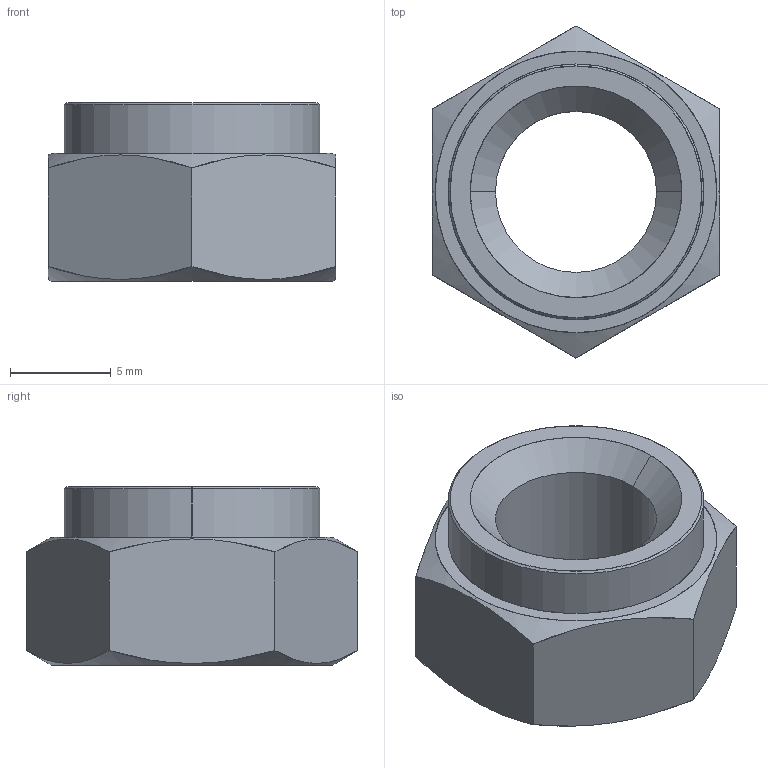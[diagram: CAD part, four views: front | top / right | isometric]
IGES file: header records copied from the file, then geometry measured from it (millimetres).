
Start section: SolidWorks IGES file using analytic representation for surfaces
Global section: file name: C:\Users\liam_\OneDrive\Desktop\Work\Mat Davis Pending 20181125\automotion\P SERIES\P0827.ZP_v2\P0827.ZP_v2_20181231_IGES\P0827.080-14G-ZP.igs; native system: SolidWorks 2017; preprocessor: SolidWorks 2017; author: liam_; date: 181231.110918; units: millimetre
Bounding box: 14.27 x 16.48 x 8.85 mm (x, y, z)
Surface area: 830.3 mm2 (no closed solid volume)
Topology: 0 solids, 0 shells, 23 faces, 424 edges, 424 vertices
Faces by surface type: revolution 14, bspline 9
